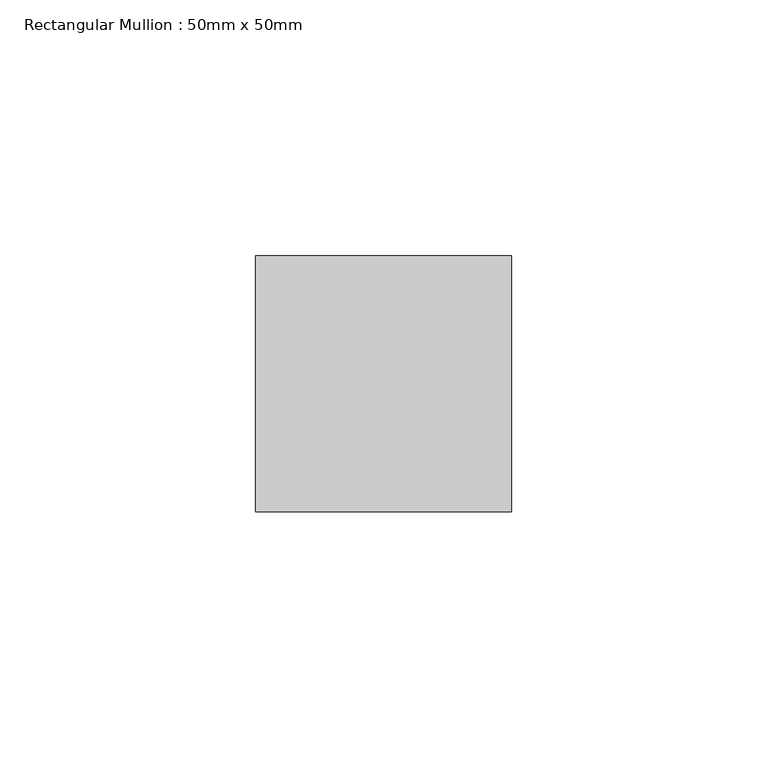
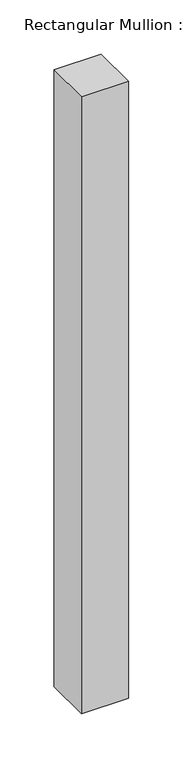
"""IFC4 building model written with IfcOpenShell, lengths in millimetres: member geometry, Rectangular Mullion : 50mm x 50mm."""

from ifc_helpers import new_model, si_unit, frame, origin, place, context, project, spatial, polyline, outline, extrude, source, transform, mapped, element, save


def rectangular_mullion_50mm_x_50mm_4861bdb0(model_context):
    return source(origin(), model_context, "Body", "SweptSolid", [
        extrude(outline(polyline([(0.0, 25.0), (0.0, -25.0), (-50.0, -25.0), (-50.0, 25.0), (0.0, 25.0)])), frame((0.0, 0.0, -692.0945145), z_axis=(0.0, 0.0, 1.0), x_axis=(1.0, 0.0, 0.0)), (0.0, 0.0, 1.0), 692.0945145),
    ])


if __name__ == "__main__":
    model = new_model("IFC4")
    model_context = context("Model", 3, world=origin())
    ifc_project = project(units=[si_unit("LENGTHUNIT", "METRE", prefix="MILLI")], contexts=[model_context])
    site = spatial("IfcSite", under=ifc_project)
    building = spatial("IfcBuilding", under=site)
    placement = place(None, origin())
    rectangular_mullion_50mm_x_50mm_shape = rectangular_mullion_50mm_x_50mm_4861bdb0(model_context)
    element("IfcMember", 1, ObjectType="Rectangular Mullion : 50mm x 50mm", at=placement, inside=building, context=model_context, shape_type="MappedRepresentation", body=[
        mapped(rectangular_mullion_50mm_x_50mm_shape, transform((0.0, 0.0, 0.0), x_axis=(1.0, 0.0, 0.0), y_axis=(0.0, 1.0, 0.0), z_axis=(0.0, 0.0, 1.0))),
    ])
    save(model, "model.ifc")
